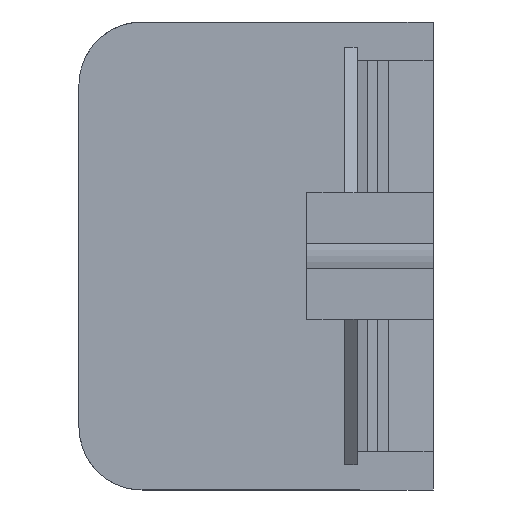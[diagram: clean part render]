
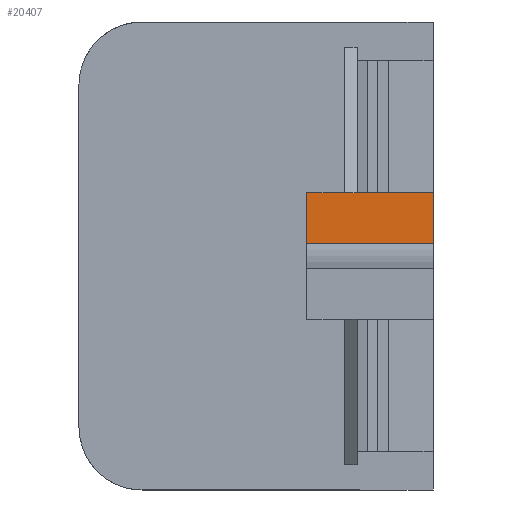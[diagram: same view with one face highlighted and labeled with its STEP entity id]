
A CAD part, left-side view. The second image highlights one B-rep face of the part: STEP entity #20407.
In plain terms, the highlighted planar face has unit normal (-1, 0, 0).
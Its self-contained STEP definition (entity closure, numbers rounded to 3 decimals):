
#1520 = CARTESIAN_POINT ( 'NONE',  ( -59., 0., 5. ) ) ;
#1772 = VECTOR ( 'NONE', #17570, 1000. ) ;
#2814 = VERTEX_POINT ( 'NONE', #54921 ) ;
#2905 = EDGE_LOOP ( 'NONE', ( #4242, #3383, #53219, #52172, #9337, #37287 ) ) ;
#3383 = ORIENTED_EDGE ( 'NONE', *, *, #55436, .T. ) ;
#4175 = CARTESIAN_POINT ( 'NONE',  ( -59., 0., 1. ) ) ;
#4242 = ORIENTED_EDGE ( 'NONE', *, *, #50569, .T. ) ;
#4630 = CARTESIAN_POINT ( 'NONE',  ( -59., 0., 5. ) ) ;
#5336 = EDGE_CURVE ( 'NONE', #8042, #2814, #52929, .T. ) ;
#6628 = LINE ( 'NONE', #19685, #14104 ) ;
#7344 = CARTESIAN_POINT ( 'NONE',  ( -59., -10., 5. ) ) ;
#8042 = VERTEX_POINT ( 'NONE', #7344 ) ;
#9337 = ORIENTED_EDGE ( 'NONE', *, *, #39769, .T. ) ;
#10462 = CARTESIAN_POINT ( 'NONE',  ( -59., 0., 0. ) ) ;
#14104 = VECTOR ( 'NONE', #15957, 1000. ) ;
#15151 = DIRECTION ( 'NONE',  ( 0., 0., -1. ) ) ;
#15956 = LINE ( 'NONE', #10462, #16662 ) ;
#15957 = DIRECTION ( 'NONE',  ( 0., 1., 0. ) ) ;
#16588 = CARTESIAN_POINT ( 'NONE',  ( -59., 0., 0. ) ) ;
#16662 = VECTOR ( 'NONE', #32093, 1000. ) ;
#16895 = VERTEX_POINT ( 'NONE', #38927 ) ;
#17310 = DIRECTION ( 'NONE',  ( 0., -1., 0. ) ) ;
#17570 = DIRECTION ( 'NONE',  ( 0., 1., 0. ) ) ;
#19685 = CARTESIAN_POINT ( 'NONE',  ( -59., 0., 5. ) ) ;
#20407 = ADVANCED_FACE ( 'NONE', ( #21864 ), #43015, .T. ) ;
#21864 = FACE_OUTER_BOUND ( 'NONE', #2905, .T. ) ;
#22095 = LINE ( 'NONE', #4630, #1772 ) ;
#26577 = EDGE_CURVE ( 'NONE', #29148, #16895, #50537, .T. ) ;
#29148 = VERTEX_POINT ( 'NONE', #37187 ) ;
#30150 = EDGE_CURVE ( 'NONE', #35832, #2814, #50140, .T. ) ;
#31304 = VECTOR ( 'NONE', #50444, 1000. ) ;
#31736 = DIRECTION ( 'NONE',  ( 0., -1., 0. ) ) ;
#32093 = DIRECTION ( 'NONE',  ( 0., 0., -1. ) ) ;
#34423 = AXIS2_PLACEMENT_3D ( 'NONE', #16588, #51491, #17310 ) ;
#35832 = VERTEX_POINT ( 'NONE', #4175 ) ;
#37187 = CARTESIAN_POINT ( 'NONE',  ( -59., -3., 5. ) ) ;
#37287 = ORIENTED_EDGE ( 'NONE', *, *, #26577, .F. ) ;
#38927 = CARTESIAN_POINT ( 'NONE',  ( -59., -4., 5. ) ) ;
#39092 = VECTOR ( 'NONE', #31736, 1000. ) ;
#39769 = EDGE_CURVE ( 'NONE', #8042, #16895, #6628, .T. ) ;
#43015 = PLANE ( 'NONE',  #34423 ) ;
#43848 = VERTEX_POINT ( 'NONE', #44334 ) ;
#44176 = VECTOR ( 'NONE', #15151, 1000. ) ;
#44334 = CARTESIAN_POINT ( 'NONE',  ( -59., 0., 5. ) ) ;
#50140 = LINE ( 'NONE', #50615, #31304 ) ;
#50444 = DIRECTION ( 'NONE',  ( 0., -1., 0. ) ) ;
#50537 = LINE ( 'NONE', #1520, #39092 ) ;
#50569 = EDGE_CURVE ( 'NONE', #29148, #43848, #22095, .T. ) ;
#50615 = CARTESIAN_POINT ( 'NONE',  ( -59., 0., 1. ) ) ;
#51491 = DIRECTION ( 'NONE',  ( -1., 0., 0. ) ) ;
#52172 = ORIENTED_EDGE ( 'NONE', *, *, #5336, .F. ) ;
#52929 = LINE ( 'NONE', #53502, #44176 ) ;
#53219 = ORIENTED_EDGE ( 'NONE', *, *, #30150, .T. ) ;
#53502 = CARTESIAN_POINT ( 'NONE',  ( -59., -10., 0. ) ) ;
#54921 = CARTESIAN_POINT ( 'NONE',  ( -59., -10., 1. ) ) ;
#55436 = EDGE_CURVE ( 'NONE', #43848, #35832, #15956, .T. ) ;
